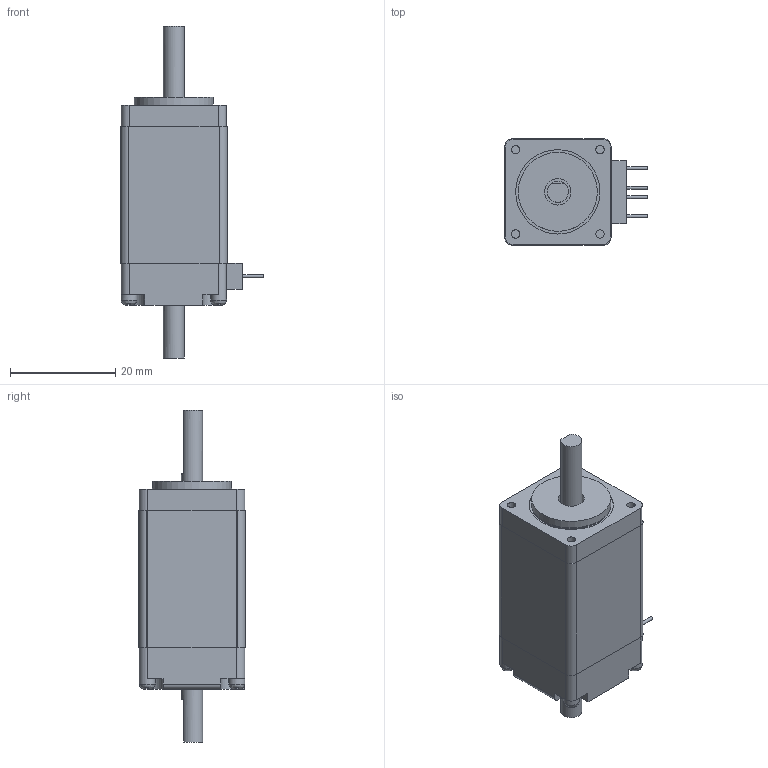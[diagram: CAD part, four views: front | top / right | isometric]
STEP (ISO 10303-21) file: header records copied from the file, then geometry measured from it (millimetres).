
FILE_DESCRIPTION(/* description */ (''),/* implementation_level */ '2;1');
FILE_NAME(/* name */ '20MMHA shuangchuzhou.stp',/* time_stamp */ '2018-08-08T14:32:41+08:00',/* author */ (''),/* organization */ (''),/* preprocessor_version */ 'ST-DEVELOPER v11',/* originating_system */ 'SIEMENS UGS NX 6.0',/* authorisation */ '');
FILE_SCHEMA (('CONFIG_CONTROL_DESIGN'));
Length unit declared in the file: millimetre
Products named in the file (1): 20MMHA shuangzhou
Bounding box: 27.1 x 20.2 x 63 mm (x, y, z)
Volume: 26155.7 mm3; surface area: 8057.1 mm2
Topology: 8 solids, 8 shells, 191 faces, 479 edges, 317 vertices
Faces by surface type: plane 150, cylinder 33, cone 4, bspline 4
Full cylindrical faces by diameter (mm): 0.558 x1, 0.566 x1, 0.575 x1, 0.581 x1, 1.6 x4, 3 x3, 3.014 x1, 4 x3, 5 x3, 15 x2, 16 x1
Entity records: 5839 total; most frequent: CARTESIAN_POINT 1421, ORIENTED_EDGE 866, DIRECTION 849, EDGE_CURVE 433, VERTEX_POINT 304, LINE 297, VECTOR 297, AXIS2_PLACEMENT_3D 276
